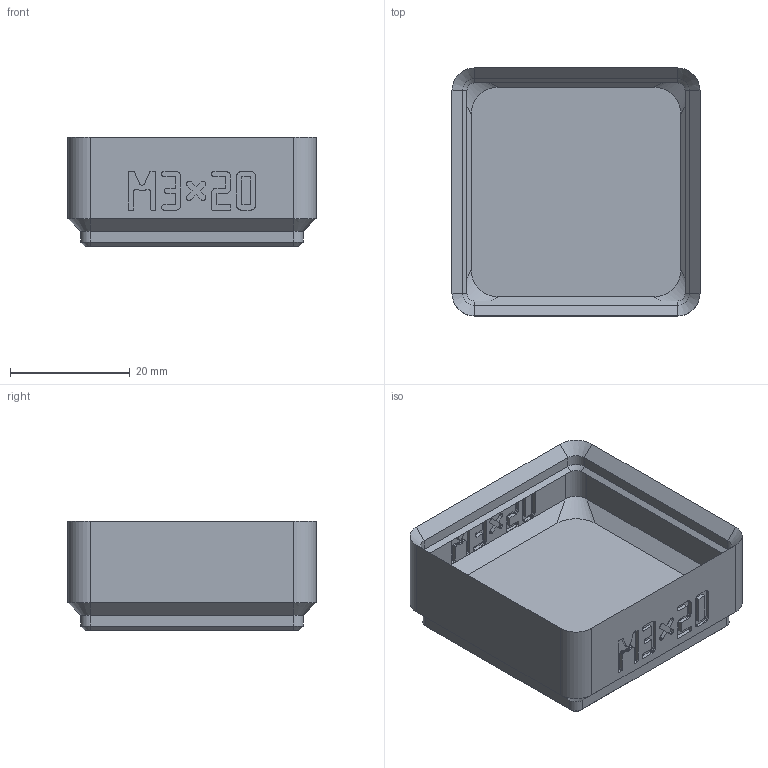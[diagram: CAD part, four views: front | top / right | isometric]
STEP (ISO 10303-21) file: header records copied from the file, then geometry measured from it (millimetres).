
FILE_DESCRIPTION(('Open CASCADE Model'),'2;1');
FILE_NAME('bin_m3x20','2026-11-16T17:22:03',('Author'),('Open CASCADE'), 'Open CASCADE STEP processor 8.0','build123d','Unknown');
FILE_SCHEMA(('AUTOMOTIVE_DESIGN { 1 0 10303 214 1 1 1 1 }'));
Products named in the file (1): bin_m3x20
Bounding box: 41.5 x 41.5 x 18.4 mm (x, y, z)
Volume: 10963.6 mm3; surface area: 8367.2 mm2
Topology: 1 solids, 1 shells, 1113 faces, 3214 edges, 2124 vertices
Faces by surface type: plane 1065, cylinder 24, cone 16, bspline 8
Full cylindrical faces by diameter (mm): 3.2 x4, 6.5 x4
Entity records: 75436 total; most frequent: CARTESIAN_POINT 15168, DIRECTION 9726, LINE 7366, VECTOR 7366, ORIENTED_EDGE 6428, PCURVE 6428, DEFINITIONAL_REPRESENTATION 6428, EDGE_CURVE 3214
